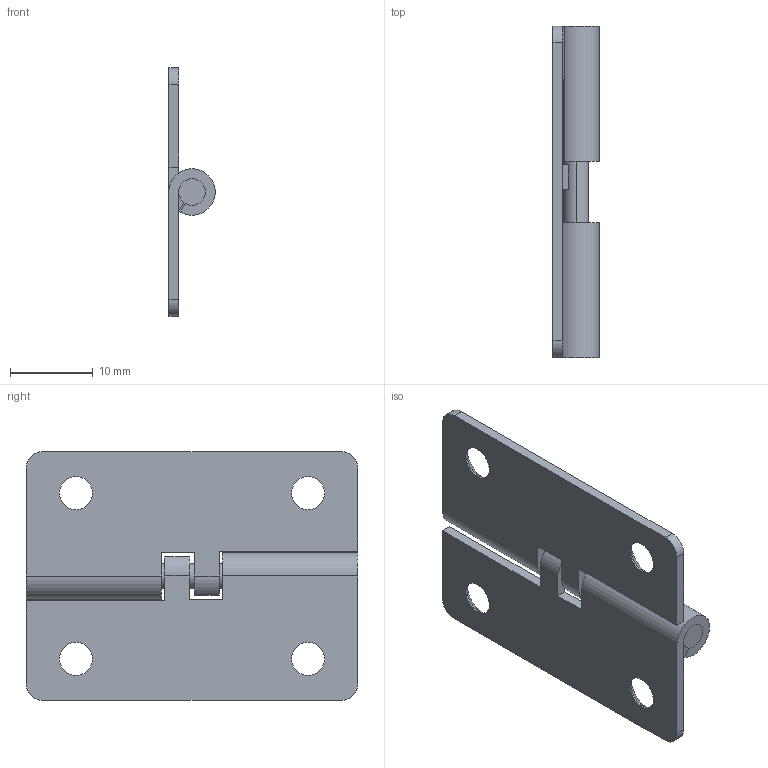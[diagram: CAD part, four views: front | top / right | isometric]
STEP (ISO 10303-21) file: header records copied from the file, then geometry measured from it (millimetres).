
FILE_DESCRIPTION (( 'STEP AP203' ), '1' );
FILE_NAME ('DEH-31-2(L).STEP', '2013-08-29T05:37:42', ( '中村　妙子' ), ( 'ＮＴ設計' ), 'SwSTEP 2.0', 'SolidWorks 2002296', '' );
FILE_SCHEMA (( 'CONFIG_CONTROL_DESIGN' ));
Length unit declared in the file: millimetre
Products named in the file (3): DEH-31-2(L); DEH-31-2-1(L)_蹬怮椔; DEH-31-2-2(L)_蹬怮椔
Assembly tree (3 placements, depth 2):
  DEH-31-2(L)
    DEH-31-2-1(L)_蹬怮椔
    DEH-31-2-2(L)_蹬怮椔  x2
Bounding box: 5.6 x 40 x 30 mm (x, y, z)
Volume: 1928.6 mm3; surface area: 3554.7 mm2
Topology: 3 solids, 3 shells, 61 faces, 152 edges, 98 vertices
Faces by surface type: plane 27, cylinder 24, cone 10
Entity records: 1369 total; most frequent: DIRECTION 200, CARTESIAN_POINT 179, ORIENTED_EDGE 168, EDGE_CURVE 84, AXIS2_PLACEMENT_3D 75, VERTEX_POINT 54, LINE 50, VECTOR 50
